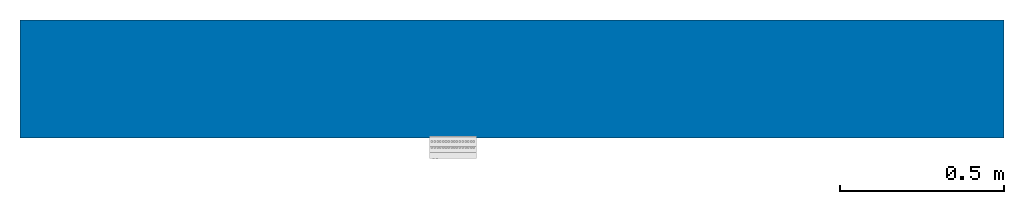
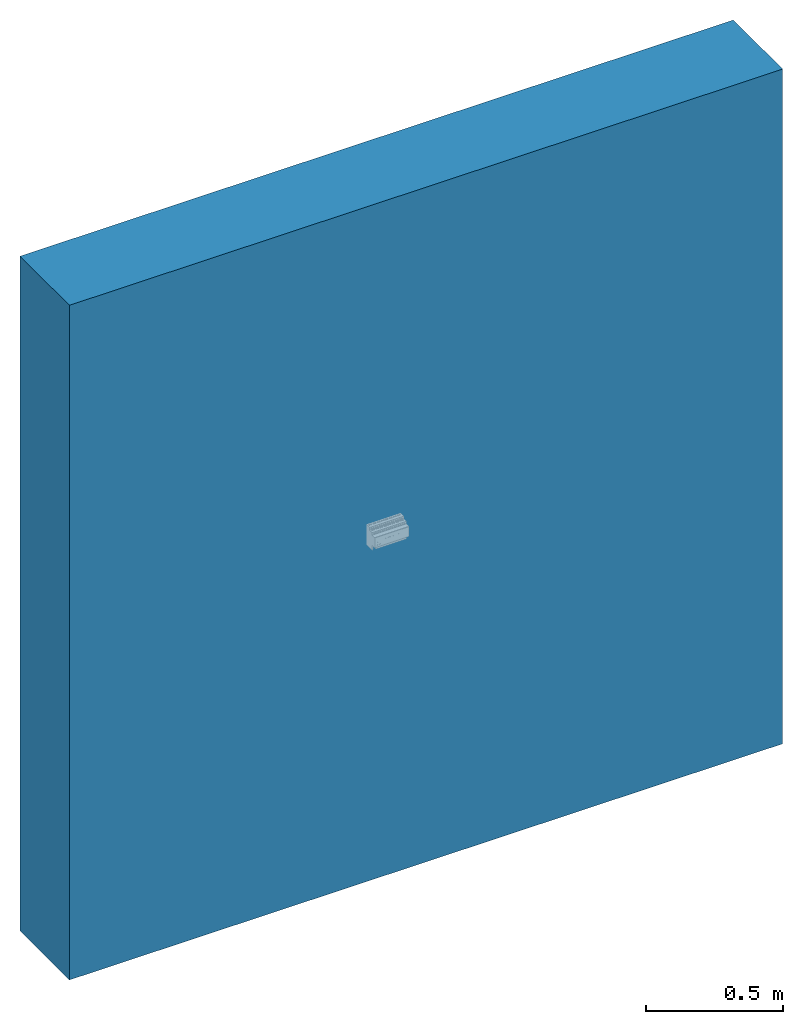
# One storey, incomplete: 1 wall.
"""IFC2X3 building model written with IfcOpenShell, lengths in metres."""

from ifc_helpers import new_model, entity, si_unit, converted_unit, derived_unit, direction, frame, frame_2d, origin, place, context, subcontext, project, spatial, rectangle, extrude, material, layer, layer_set, layer_usage, type_object, element, save


model = new_model("IFC2X3")

# Units and contexts
model_context = context("Model", 3, precision=1e-05, world=origin(), true_north=direction((6.12303176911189e-17, 1.0)))
body_context = subcontext(model_context, "Body", "Model", "MODEL_VIEW")
ifc_project = project(units=[si_unit("LENGTHUNIT", "METRE"), si_unit("AREAUNIT", "SQUARE_METRE"), si_unit("VOLUMEUNIT", "CUBIC_METRE"), converted_unit("PLANEANGLEUNIT", "DEGREE", entity("IfcRatioMeasure", 0.0174532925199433), si_unit("PLANEANGLEUNIT", "RADIAN"), dimensions=[0, 0, 0, 0, 0, 0, 0]), si_unit("MASSUNIT", "GRAM", prefix="KILO"), si_unit("TIMEUNIT", "SECOND"), si_unit("FREQUENCYUNIT", "HERTZ"), si_unit("THERMODYNAMICTEMPERATUREUNIT", "DEGREE_CELSIUS"), derived_unit("THERMALTRANSMITTANCEUNIT", [(si_unit("MASSUNIT", "GRAM", prefix="KILO"), 1), (si_unit("THERMODYNAMICTEMPERATUREUNIT", "KELVIN"), -1), (si_unit("TIMEUNIT", "SECOND"), -3)]), derived_unit("VOLUMETRICFLOWRATEUNIT", [(si_unit("LENGTHUNIT", "METRE"), 3), (si_unit("TIMEUNIT", "SECOND"), -1)]), si_unit("ELECTRICCURRENTUNIT", "AMPERE"), si_unit("ELECTRICVOLTAGEUNIT", "VOLT"), si_unit("POWERUNIT", "WATT"), si_unit("FORCEUNIT", "NEWTON", prefix="KILO"), si_unit("ILLUMINANCEUNIT", "LUX"), si_unit("LUMINOUSFLUXUNIT", "LUMEN"), si_unit("LUMINOUSINTENSITYUNIT", "CANDELA"), derived_unit("USERDEFINED", [(si_unit("MASSUNIT", "GRAM", prefix="KILO"), -1), (si_unit("LENGTHUNIT", "METRE"), -2), (si_unit("TIMEUNIT", "SECOND"), 3), (si_unit("LUMINOUSFLUXUNIT", "LUMEN"), 1)]), derived_unit("LINEARVELOCITYUNIT", [(si_unit("LENGTHUNIT", "METRE"), 1), (si_unit("TIMEUNIT", "SECOND"), -1)]), si_unit("PRESSUREUNIT", "PASCAL"), derived_unit("USERDEFINED", [(si_unit("LENGTHUNIT", "METRE"), -2), (si_unit("MASSUNIT", "GRAM", prefix="KILO"), 1), (si_unit("TIMEUNIT", "SECOND"), -2)])], contexts=[model_context])

# Site, building, storey
site_placement = place(None, origin())
site = spatial("IfcSite", under=ifc_project, at=site_placement, Name="Default", CompositionType="ELEMENT")
building_placement = place(site_placement, origin())
building = spatial("IfcBuilding", under=site, at=building_placement, CompositionType="ELEMENT")
storey_placement = place(building_placement, origin())
storey = spatial("IfcBuildingStorey", under=building, at=storey_placement, Name="Ebene 0", CompositionType="ELEMENT", Elevation=0.0)

# Wall
ifc_material_1 = material(Name="Wärmedämmung - hart")
ifc_layer_1 = layer(ifc_material_1, 0.12)
ifc_material_2 = material(Name="Mauerwerk - Ziegel, verputzt")
ifc_layer_2 = layer(ifc_material_2, 0.24)
ifc_layer_set = layer_set([ifc_layer_1, ifc_layer_2], Name="Basiswand:MW 24.0 WD 12.0")
ifc_layer_usage = layer_usage(ifc_layer_set, "AXIS2", "NEGATIVE", 0.18)
wall_type = type_object("IfcWallType", Name="Basiswand:MW 24.0 WD 12.0", PredefinedType="STANDARD", material=ifc_layer_set)
wall_placement = place(storey_placement, frame((-5.67450601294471, -1.62801176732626, 0.0)))
element("IfcWallStandardCase", 1, at=wall_placement, inside=storey, type_object=wall_type, material=ifc_layer_usage, Name="Basiswand:MW 24.0 WD 12.0", ObjectType="Basiswand:MW 24.0 WD 12.0:3900", context=body_context, shape_type="SweptSolid", body=[
    extrude(rectangle(XDim=3.0, YDim=0.36, at=frame_2d((1.5, -1.38777878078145e-17), x_axis=(-1.0, 0.0))), origin(), (0.0, 0.0, 1.0), 3.0),
])

save(model, "model.ifc")
